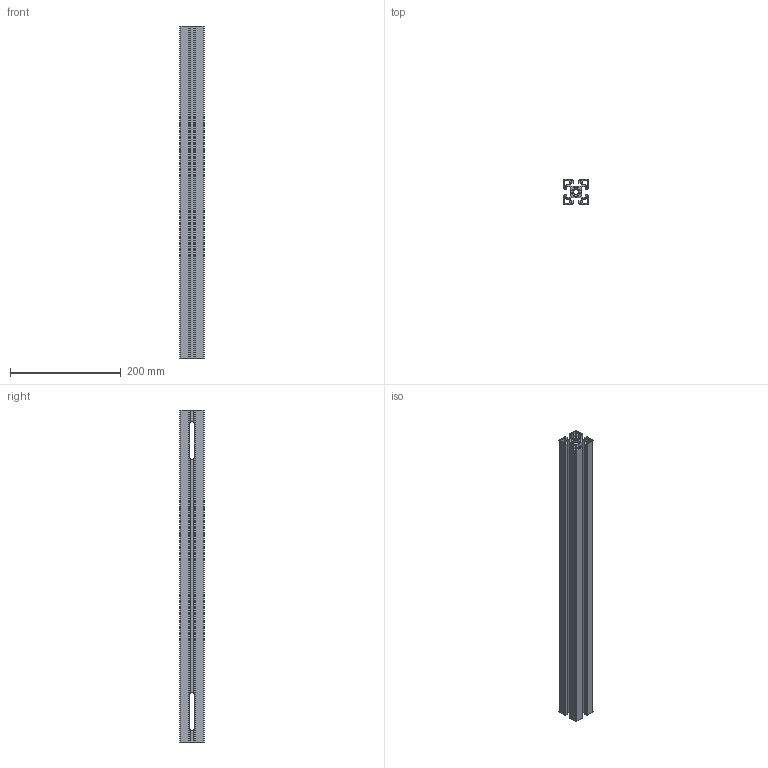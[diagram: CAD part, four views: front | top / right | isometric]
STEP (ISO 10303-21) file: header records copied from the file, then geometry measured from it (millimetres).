
FILE_DESCRIPTION(/* description */ (''),/* implementation_level */ '2;1');
FILE_NAME(/* name */ 'WHEELS-INSERT.22.stp',/* time_stamp */ '2018-05-25T14:26:18+02:00',/* author */ (''),/* organization */ (''),/* preprocessor_version */ 'ST-DEVELOPER v16.7',/* originating_system */ 'SIEMENS PLM Software NX 12.0',/* authorisation */ '');
FILE_SCHEMA (('AP203_CONFIGURATION_CONTROLLED_3D_DESIGN_OF_MECHANICAL_PARTS_AND_ASSEMBLIES_MIM_LF { 1 0 10303 403 2 1 2}'));
Length unit declared in the file: millimetre
Products named in the file (1): turc66A81BAD9zgz
Bounding box: 45 x 45 x 600 mm (x, y, z)
Volume: 446385.5 mm3; surface area: 369125 mm2
Topology: 1 solids, 1 shells, 226 faces, 696 edges, 464 vertices
Faces by surface type: plane 130, cylinder 96
Entity records: 8018 total; most frequent: CARTESIAN_POINT 1571, ORIENTED_EDGE 1392, DIRECTION 1294, EDGE_CURVE 696, VERTEX_POINT 464, LINE 456, VECTOR 456, AXIS2_PLACEMENT_3D 419
